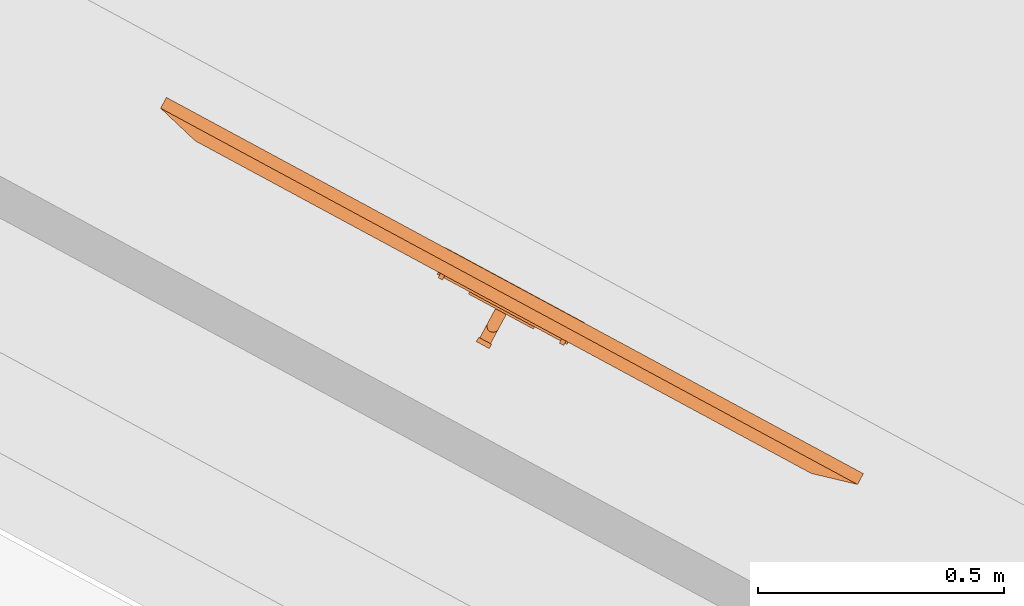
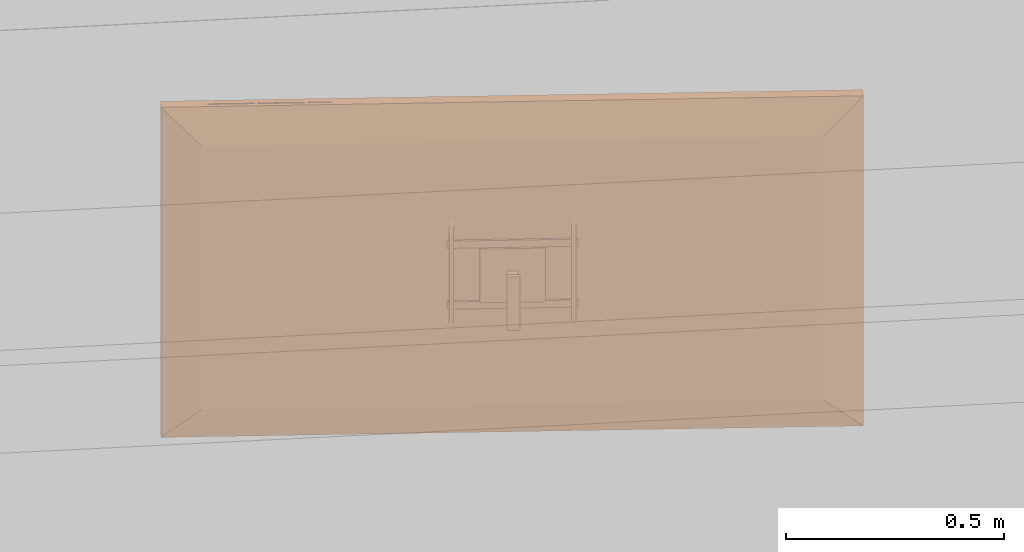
# One storey, part 41 of 52: 1 proxy.
"""IFC2X3 building model written with IfcOpenShell, lengths in metres."""

from ifc_helpers import new_model, entity, si_unit, converted_unit, derived_unit, money_unit, direction, frame, origin_with_axes, place, context, subcontext, project, spatial, faceted_brep, source, transform, mapped, type_object, element, save


model = new_model("IFC2X3")

# Units and contexts
model_context = context("Model", 3, precision=1e-05, world=origin_with_axes(), true_north=direction((0.0, 1.0)))
body_context = subcontext(model_context, "Body", "Model", "MODEL_VIEW")
ifc_project = project(units=[si_unit("LENGTHUNIT", "METRE"), si_unit("AREAUNIT", "SQUARE_METRE"), si_unit("VOLUMEUNIT", "CUBIC_METRE"), converted_unit("PLANEANGLEUNIT", "DEGREE", entity("IfcPlaneAngleMeasure", 0.0174532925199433), si_unit("PLANEANGLEUNIT", "RADIAN"), dimensions=[0, 0, 0, 0, 0, 0, 0]), money_unit("EUR"), converted_unit("TIMEUNIT", "Year", entity("IfcTimeMeasure", 31556926.0), si_unit("TIMEUNIT", "SECOND"), dimensions=[0, 0, 1, 0, 0, 0, 0]), si_unit("MASSUNIT", "GRAM", prefix="KILO"), si_unit("THERMODYNAMICTEMPERATUREUNIT", "DEGREE_CELSIUS"), si_unit("LUMINOUSINTENSITYUNIT", "LUMEN"), si_unit("ENERGYUNIT", "JOULE", prefix="MEGA"), derived_unit("THERMALCONDUCTANCEUNIT", [(si_unit("POWERUNIT", "WATT"), 1), (si_unit("LENGTHUNIT", "METRE"), -1), (si_unit("THERMODYNAMICTEMPERATUREUNIT", "KELVIN"), -1)]), derived_unit("SPECIFICHEATCAPACITYUNIT", [(si_unit("ENERGYUNIT", "JOULE"), 1), (si_unit("MASSUNIT", "GRAM", prefix="KILO"), -1), (si_unit("THERMODYNAMICTEMPERATUREUNIT", "KELVIN"), -1)]), derived_unit("MASSDENSITYUNIT", [(si_unit("MASSUNIT", "GRAM", prefix="KILO"), 1), (si_unit("VOLUMEUNIT", "CUBIC_METRE"), -1)])], contexts=[model_context])

# Site, building, storey
site_placement = place(None, frame((-3.949935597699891, 1.740105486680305, 0.0), z_axis=(0.0, 0.0, 1.0), x_axis=(0.8799804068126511, -0.475009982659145, 0.0)))
site = spatial("IfcSite", under=ifc_project, at=site_placement, Name="Gelände", CompositionType="ELEMENT")
building_placement = place(site_placement, origin_with_axes())
building = spatial("IfcBuilding", under=site, at=building_placement, Name="Gebäude", CompositionType="ELEMENT")
storey_placement = place(building_placement, origin_with_axes())
storey = spatial("IfcBuildingStorey", under=building, at=storey_placement, Name="Erdgeschoss", CompositionType="ELEMENT", Elevation=0.0)

# Proxy
building_element_proxy_type = type_object("IfcBuildingElementProxyType", Name="Flachbildfernseher 22", PredefinedType="NOTDEFINED")
shared_shape = source(origin_with_axes(), body_context, "Body", "Brep", [
    faceted_brep([(-0.7294179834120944, 0.06000000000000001, 0.5362351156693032), (-0.8794179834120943, 0.06000000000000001, 0.5362351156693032), (-0.8794179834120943, 0.05000000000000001, 0.5362351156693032), (-0.7294179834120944, 0.05000000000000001, 0.5362351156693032), (-0.7294179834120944, 0.06, 0.3862351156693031), (-0.8794179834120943, 0.06, 0.3862351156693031), (-0.8794179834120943, 0.05, 0.3862351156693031), (-0.7294179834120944, 0.05, 0.3862351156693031)], [[[0, 1, 2, 3]], [[0, 4, 5, 1]], [[1, 5, 6, 2]], [[3, 2, 6, 7]], [[4, 0, 3, 7]], [[5, 4, 7, 6]]]),
    faceted_brep([(-0.6544179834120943, 0.055, 0.3662351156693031), (-0.6544179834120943, 0.055, 0.3862351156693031), (-0.6544179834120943, 0.05, 0.3862351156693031), (-0.6544179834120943, 0.05, 0.3662351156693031), (-0.9544179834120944, 0.055, 0.3662351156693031), (-0.9544179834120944, 0.055, 0.3862351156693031), (-0.9544179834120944, 0.05, 0.3862351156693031), (-0.9544179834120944, 0.05, 0.3662351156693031)], [[[0, 1, 2, 3]], [[0, 4, 5, 1]], [[1, 5, 6, 2]], [[3, 2, 6, 7]], [[4, 0, 3, 7]], [[5, 4, 7, 6]]]),
    faceted_brep([(-0.6544179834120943, 0.05500000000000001, 0.5562351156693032), (-0.6544179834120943, 0.05000000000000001, 0.5562351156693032), (-0.6544179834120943, 0.05000000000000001, 0.5362351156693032), (-0.6544179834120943, 0.05500000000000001, 0.5362351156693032), (-0.9544179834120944, 0.05500000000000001, 0.5562351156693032), (-0.9544179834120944, 0.05000000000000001, 0.5562351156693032), (-0.9544179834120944, 0.05000000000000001, 0.5362351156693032), (-0.9544179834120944, 0.05500000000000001, 0.5362351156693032)], [[[0, 1, 2, 3]], [[4, 5, 1, 0]], [[1, 5, 6, 2]], [[3, 2, 6, 7]], [[0, 3, 7, 4]], [[7, 6, 5, 4]]]),
    faceted_brep([(-0.6694179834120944, 0.05999999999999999, 0.3487351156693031), (-0.6694179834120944, 0.06, 0.5737351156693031), (-0.6594179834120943, 0.06, 0.5737351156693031), (-0.6594179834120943, 0.05999999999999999, 0.3487351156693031), (-0.6694179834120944, 0.04999999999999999, 0.3112351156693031), (-0.6694179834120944, 0.05, 0.6112351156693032), (-0.6594179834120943, 0.05, 0.6112351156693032), (-0.6594179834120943, 0.04999999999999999, 0.3112351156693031)], [[[0, 1, 2, 3]], [[0, 4, 5, 1]], [[1, 5, 6, 2]], [[3, 2, 6, 7]], [[4, 0, 3, 7]], [[5, 4, 7, 6]]]),
    faceted_brep([(-0.9394179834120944, 0.06, 0.3487351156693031), (-0.9494179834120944, 0.06, 0.3487351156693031), (-0.9494179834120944, 0.06000000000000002, 0.5737351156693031), (-0.9394179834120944, 0.06000000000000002, 0.5737351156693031), (-0.9394179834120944, 0.05, 0.3112351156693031), (-0.9494179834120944, 0.05, 0.3112351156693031), (-0.9494179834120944, 0.05000000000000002, 0.6112351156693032), (-0.9394179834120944, 0.05000000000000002, 0.6112351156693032)], [[[0, 1, 2, 3]], [[4, 5, 1, 0]], [[1, 5, 6, 2]], [[3, 2, 6, 7]], [[0, 3, 7, 4]], [[7, 6, 5, 4]]]),
    faceted_brep([(-0.8169179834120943, 0.09375000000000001, 0.4737351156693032), (-0.8161641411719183, 0.09802525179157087, 0.4737351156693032), (-0.8161641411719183, 0.09802525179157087, 0.4237351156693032), (-0.8169179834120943, 0.09375000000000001, 0.4237351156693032), (-0.8161641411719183, 0.08947474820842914, 0.4737351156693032), (-0.8139935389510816, 0.08571515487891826, 0.4737351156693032), (-0.8106679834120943, 0.08292468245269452, 0.4737351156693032), (-0.806588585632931, 0.0814399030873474, 0.4737351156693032), (-0.8022473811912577, 0.08143990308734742, 0.4737351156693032), (-0.7981679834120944, 0.08292468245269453, 0.4737351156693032), (-0.7948424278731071, 0.08571515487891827, 0.4737351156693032), (-0.7926718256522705, 0.08947474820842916, 0.4737351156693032), (-0.7919179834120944, 0.09375000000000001, 0.4737351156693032), (-0.7926718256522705, 0.09802525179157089, 0.4737351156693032), (-0.7948424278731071, 0.1017848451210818, 0.4737351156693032), (-0.7981679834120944, 0.1045753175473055, 0.4737351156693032), (-0.8022473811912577, 0.1060600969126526, 0.4737351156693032), (-0.806588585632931, 0.1060600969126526, 0.4737351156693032), (-0.8106679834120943, 0.1045753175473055, 0.4737351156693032), (-0.8139935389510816, 0.1017848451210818, 0.4737351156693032), (-0.8139935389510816, 0.1017848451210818, 0.4237351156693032), (-0.8106679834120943, 0.1045753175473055, 0.4237351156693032), (-0.806588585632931, 0.1060600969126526, 0.4237351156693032), (-0.8022473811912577, 0.1060600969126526, 0.4237351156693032), (-0.7981679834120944, 0.1045753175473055, 0.4237351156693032), (-0.7948424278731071, 0.1017848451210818, 0.4237351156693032), (-0.7926718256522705, 0.09802525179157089, 0.4237351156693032), (-0.7919179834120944, 0.09375000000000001, 0.4237351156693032), (-0.7926718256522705, 0.08947474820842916, 0.4237351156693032), (-0.7948424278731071, 0.08571515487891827, 0.4237351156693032), (-0.7981679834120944, 0.08292468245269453, 0.4237351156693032), (-0.8022473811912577, 0.08143990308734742, 0.4237351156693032), (-0.806588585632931, 0.0814399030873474, 0.4237351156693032), (-0.8106679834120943, 0.08292468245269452, 0.4237351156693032), (-0.8139935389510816, 0.08571515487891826, 0.4237351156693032), (-0.8161641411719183, 0.08947474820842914, 0.4237351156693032)], [[[0, 1, 2, 3]], [[0, 4, 5, 6, 7, 8, 9, 10, 11, 12, 13, 14, 15, 16, 17, 18, 19, 1]], [[1, 19, 20, 2]], [[3, 2, 20, 21, 22, 23, 24, 25, 26, 27, 28, 29, 30, 31, 32, 33, 34, 35]], [[4, 0, 3, 35]], [[5, 4, 35, 34]], [[6, 5, 34, 33]], [[7, 6, 33, 32]], [[8, 7, 32, 31]], [[9, 8, 31, 30]], [[10, 9, 30, 29]], [[11, 10, 29, 28]], [[12, 11, 28, 27]], [[13, 12, 27, 26]], [[14, 13, 26, 25]], [[15, 14, 25, 24]], [[16, 15, 24, 23]], [[17, 16, 23, 22]], [[18, 17, 22, 21]], [[19, 18, 21, 20]]]),
    faceted_brep([(-0.8169179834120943, 0.09375000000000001, 0.4487351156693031), (-0.8169179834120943, 0.06, 0.4487351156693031), (-0.8169179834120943, 0.06, 0.4737351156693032), (-0.8169179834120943, 0.09375000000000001, 0.4737351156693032), (-0.8161641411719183, 0.08947474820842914, 0.4487351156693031), (-0.8139935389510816, 0.08571515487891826, 0.4487351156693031), (-0.8106679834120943, 0.08292468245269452, 0.4487351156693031), (-0.806588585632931, 0.0814399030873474, 0.4487351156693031), (-0.8022473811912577, 0.08143990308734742, 0.4487351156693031), (-0.7981679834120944, 0.08292468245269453, 0.4487351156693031), (-0.7948424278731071, 0.08571515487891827, 0.4487351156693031), (-0.7926718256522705, 0.08947474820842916, 0.4487351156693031), (-0.7919179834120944, 0.09375000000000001, 0.4487351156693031), (-0.7919179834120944, 0.06, 0.4487351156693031), (-0.7919179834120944, 0.06, 0.4737351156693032), (-0.7926718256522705, 0.08947474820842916, 0.4737351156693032), (-0.7948424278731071, 0.08571515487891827, 0.4737351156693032), (-0.7981679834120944, 0.08292468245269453, 0.4737351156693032), (-0.8022473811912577, 0.08143990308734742, 0.4737351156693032), (-0.806588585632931, 0.0814399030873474, 0.4737351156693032), (-0.8106679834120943, 0.08292468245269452, 0.4737351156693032), (-0.8139935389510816, 0.08571515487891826, 0.4737351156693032), (-0.8161641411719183, 0.08947474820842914, 0.4737351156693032), (-0.7919179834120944, 0.09375000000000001, 0.4737351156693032)], [[[0, 1, 2, 3]], [[4, 5, 6, 7, 8, 9, 10, 11, 12, 13, 1, 0]], [[1, 13, 14, 2]], [[15, 16, 17, 18, 19, 20, 21, 22, 3, 2, 14, 23]], [[22, 4, 0, 3]], [[21, 5, 4, 22]], [[20, 6, 5, 21]], [[19, 7, 6, 20]], [[18, 8, 7, 19]], [[17, 9, 8, 18]], [[16, 10, 9, 17]], [[15, 11, 10, 16]], [[23, 12, 11, 15]], [[23, 14, 13, 12]]]),
    faceted_brep([(-0.8139935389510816, 0.1017848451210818, 0.4487351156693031), (-0.8106679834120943, 0.1045753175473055, 0.4487351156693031), (-0.806588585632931, 0.1060600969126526, 0.4487351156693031), (-0.8022473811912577, 0.1060600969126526, 0.4487351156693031), (-0.7981679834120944, 0.1045753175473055, 0.4487351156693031), (-0.7948424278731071, 0.1017848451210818, 0.4487351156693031), (-0.7926718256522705, 0.09802525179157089, 0.4487351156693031), (-0.7919179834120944, 0.09375000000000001, 0.4487351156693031), (-0.7919179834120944, 0.1275, 0.4487351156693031), (-0.8169179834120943, 0.1275, 0.4487351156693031), (-0.8169179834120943, 0.09375000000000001, 0.4487351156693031), (-0.8161641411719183, 0.09802525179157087, 0.4487351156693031), (-0.8139935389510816, 0.1017848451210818, 0.4237351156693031), (-0.8106679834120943, 0.1045753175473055, 0.4237351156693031), (-0.806588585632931, 0.1060600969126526, 0.4237351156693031), (-0.8022473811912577, 0.1060600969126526, 0.4237351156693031), (-0.7981679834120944, 0.1045753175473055, 0.4237351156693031), (-0.7948424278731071, 0.1017848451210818, 0.4237351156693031), (-0.7926718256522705, 0.09802525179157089, 0.4237351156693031), (-0.7919179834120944, 0.09375000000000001, 0.4237351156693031), (-0.7919179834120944, 0.1275, 0.4237351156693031), (-0.8169179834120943, 0.1275, 0.4237351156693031), (-0.8169179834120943, 0.09375000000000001, 0.4237351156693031), (-0.8161641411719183, 0.09802525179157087, 0.4237351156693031)], [[[0, 1, 2, 3, 4, 5, 6, 7, 8, 9, 10, 11]], [[0, 12, 13, 1]], [[1, 13, 14, 2]], [[2, 14, 15, 3]], [[3, 15, 16, 4]], [[4, 16, 17, 5]], [[5, 17, 18, 6]], [[6, 18, 19, 7]], [[19, 20, 8, 7]], [[8, 20, 21, 9]], [[10, 9, 21, 22]], [[10, 22, 23, 11]], [[11, 23, 12, 0]], [[18, 17, 16, 15, 14, 13, 12, 23, 22, 21, 20, 19]]]),
    faceted_brep([(-0.7894179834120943, 0.1275, 0.3612351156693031), (-0.8194179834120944, 0.1275, 0.3612351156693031), (-0.8194179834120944, 0.1375, 0.3612351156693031), (-0.7894179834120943, 0.1375, 0.3612351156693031), (-0.7894179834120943, 0.1275, 0.5112351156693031), (-0.8194179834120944, 0.1275, 0.5112351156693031), (-0.8194179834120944, 0.1375, 0.5112351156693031), (-0.7894179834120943, 0.1375, 0.5112351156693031)], [[[0, 1, 2, 3]], [[0, 4, 5, 1]], [[1, 5, 6, 2]], [[3, 2, 6, 7]], [[4, 0, 3, 7]], [[5, 4, 7, 6]]]),
    faceted_brep([(-1.588835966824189, 0.0, 0.02), (-1.588835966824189, 0.0, 0.9024702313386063), (-1.588835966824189, 0.0009999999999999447, 0.9024702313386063), (-1.588835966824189, 0.0009999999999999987, 0.02), (-0.02, 0.0, 0.02), (-0.02, 0.0, 0.9024702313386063), (-0.02, 0.0009999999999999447, 0.9024702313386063), (-0.02, 0.0009999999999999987, 0.02)], [[[0, 1, 2, 3]], [[0, 4, 5, 1]], [[1, 5, 6, 2]], [[3, 2, 6, 7]], [[4, 0, 3, 7]], [[5, 4, 7, 6]]]),
    faceted_brep([(-1.608835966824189, 0.0, 0.9224702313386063), (-1.608835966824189, 0.0, 0.0), (0.0, 0.0, 0.0), (0.0, 0.0, 0.9224702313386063), (-0.02000000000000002, 0.0, 0.02000000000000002), (-1.588835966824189, 0.0, 0.02000000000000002), (-1.588835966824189, 0.0, 0.9024702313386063), (-0.02000000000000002, 0.0, 0.9024702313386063), (-1.608835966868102, 0.025, -3.895163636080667e-10), (-1.608835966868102, 0.02499999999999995, 0.9224702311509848), (3.895163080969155e-10, 0.025, -3.895163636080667e-10), (3.895163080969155e-10, 0.02499999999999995, 0.9224702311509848), (-0.02000000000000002, 0.0009999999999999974, 0.02000000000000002), (-1.588835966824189, 0.0009999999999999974, 0.02000000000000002), (-1.588835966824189, 0.0009999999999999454, 0.9024702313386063), (-0.02000000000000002, 0.0009999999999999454, 0.9024702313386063), (-1.515534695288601, 0.05000000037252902, 0.09330127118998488), (-1.515534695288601, 0.05000000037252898, 0.8291689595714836), (-0.09330127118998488, 0.05000000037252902, 0.09330127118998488), (-0.09330127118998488, 0.05000000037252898, 0.8291689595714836)], [[[0, 1, 2, 3], [4, 5, 6, 7]], [[8, 1, 0, 9]], [[10, 2, 1, 8]], [[11, 3, 2, 10]], [[9, 0, 3, 11]], [[4, 12, 13, 5]], [[5, 13, 14, 6]], [[6, 14, 15, 7]], [[7, 15, 12, 4]], [[16, 8, 9, 17]], [[18, 10, 8, 16]], [[19, 11, 10, 18]], [[17, 9, 11, 19]], [[14, 13, 12, 15]], [[17, 19, 18, 16]]]),
    faceted_brep([(-0.8044179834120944, -0.0008000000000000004, 0.005), (-0.8205063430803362, -0.0008000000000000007, 0.01), (-0.8205063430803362, 0.0, 0.01), (-0.8044179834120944, 0.0, 0.005), (-0.7883296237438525, -0.0008000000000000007, 0.01), (-0.6435343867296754, -0.000800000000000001, 0.015), (-0.9653015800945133, -0.000800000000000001, 0.015), (-0.9653015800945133, 0.0, 0.015), (-0.6435343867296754, 0.0, 0.015), (-0.7883296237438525, 0.0, 0.01)], [[[0, 1, 2, 3]], [[0, 4, 5, 6, 1]], [[1, 6, 7, 2]], [[3, 2, 7, 8, 9]], [[4, 0, 3, 9]], [[5, 4, 9, 8]], [[6, 5, 8, 7]]]),
    faceted_brep([(-0.2145114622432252, 0.009999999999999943, 0.9224702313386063), (-0.1072557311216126, 0.009999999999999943, 0.9224702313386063), (-0.1072557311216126, 0.009999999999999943, 0.9240702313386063), (-0.2145114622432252, 0.009999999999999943, 0.9240702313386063), (-0.2145114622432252, 0.01624999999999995, 0.9224702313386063), (-0.1072557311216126, 0.01624999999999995, 0.9224702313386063), (-0.1072557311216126, 0.01624999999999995, 0.9240702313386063), (-0.2145114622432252, 0.01624999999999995, 0.9240702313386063)], [[[0, 1, 2, 3]], [[1, 0, 4, 5]], [[2, 1, 5, 6]], [[3, 2, 6, 7]], [[0, 3, 7, 4]], [[5, 4, 7, 6]]]),
    faceted_brep([(-0.3294283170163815, 0.009999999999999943, 0.9224702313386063), (-0.2221725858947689, 0.009999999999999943, 0.9224702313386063), (-0.2221725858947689, 0.009999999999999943, 0.9240702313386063), (-0.3294283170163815, 0.009999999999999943, 0.9240702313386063), (-0.3294283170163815, 0.01624999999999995, 0.9224702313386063), (-0.2221725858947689, 0.01624999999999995, 0.9224702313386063), (-0.2221725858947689, 0.01624999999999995, 0.9240702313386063), (-0.3294283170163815, 0.01624999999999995, 0.9240702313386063)], [[[0, 1, 2, 3]], [[1, 0, 4, 5]], [[2, 1, 5, 6]], [[3, 2, 6, 7]], [[0, 3, 7, 4]], [[5, 4, 7, 6]]]),
    faceted_brep([(-0.3907173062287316, 0.009999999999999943, 0.9224702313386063), (-0.3370894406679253, 0.009999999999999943, 0.9224702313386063), (-0.3370894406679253, 0.009999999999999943, 0.9240702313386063), (-0.3907173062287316, 0.009999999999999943, 0.9240702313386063), (-0.3907173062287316, 0.01624999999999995, 0.9224702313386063), (-0.3370894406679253, 0.01624999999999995, 0.9224702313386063), (-0.3370894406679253, 0.01624999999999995, 0.9240702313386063), (-0.3907173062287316, 0.01624999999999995, 0.9240702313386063)], [[[0, 1, 2, 3]], [[1, 0, 4, 5]], [[2, 1, 5, 6]], [[3, 2, 6, 7]], [[0, 3, 7, 4]], [[5, 4, 7, 6]]]),
])
proxy_placement = place(storey_placement, frame((9.515229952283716, 0.8412998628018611, 0.9672373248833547), z_axis=(0.0, 0.0, 1.0), x_axis=(-1.0, 0.0, 0.0)))
element("IfcBuildingElementProxy", 1, at=proxy_placement, inside=storey, type_object=building_element_proxy_type, Name="Objekt-0064", context=body_context, shape_type="MappedRepresentation", body=[
    mapped(shared_shape, transform((0.0, 0.0, 0.0))),
])

save(model, "model.ifc")
